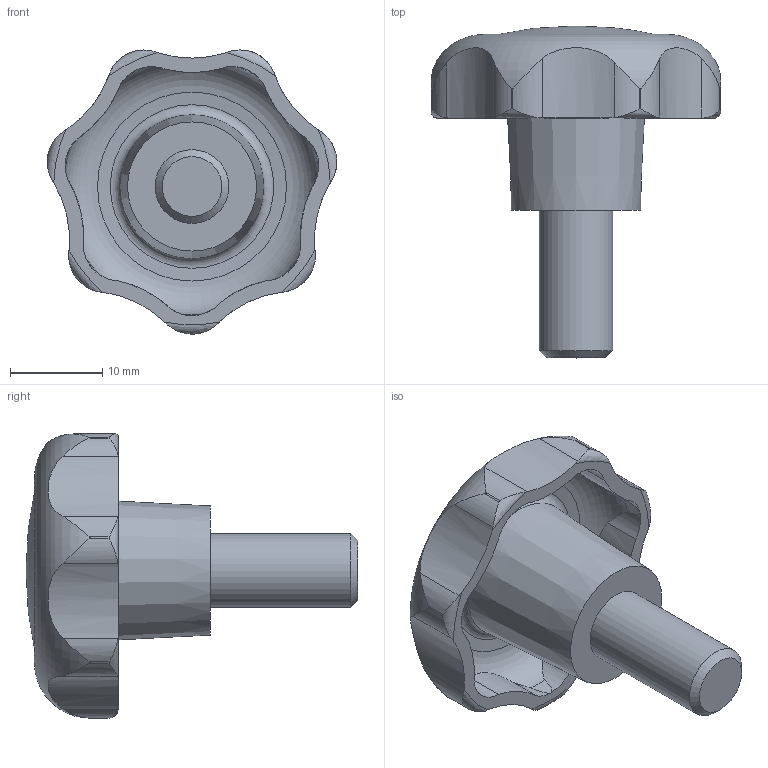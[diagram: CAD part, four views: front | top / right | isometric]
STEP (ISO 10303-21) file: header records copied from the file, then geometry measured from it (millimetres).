
FILE_DESCRIPTION( ( 'STEP AP203' ), '1' );
FILE_NAME( 'C:/Temp/Ganter_Step_05_03_2020/data/2_2/gn_6336_4/gn_6336_4_st/Star knob GN 6336.4-ST-32-M8-16.stp', '2020-03-05T12:07:23', ( 'License CC BY-ND 4.0' ), ( 'CADENAS' ), ' ', 'PARTsolutions', ' ' );
FILE_SCHEMA( ( 'CONFIG_CONTROL_DESIGN' ) );
Length unit declared in the file: millimetre
Products named in the file (1): _Star knob GN 6336.4-ST-32-M8-16
Bounding box: 31.4 x 36 x 30.81 mm (x, y, z)
Volume: 6602.5 mm3; surface area: 3573.4 mm2
Topology: 1 solids, 1 shells, 74 faces, 209 edges, 138 vertices
Faces by surface type: cylinder 50, torus 10, cone 10, plane 3, sphere 1
Full cylindrical faces by diameter (mm): 8 x1
Entity records: 3221 total; most frequent: CARTESIAN_POINT 1406, ORIENTED_EDGE 394, DIRECTION 336, EDGE_CURVE 197, AXIS2_PLACEMENT_3D 147, VERTEX_POINT 136, EDGE_LOOP 83, B_SPLINE_CURVE_WITH_KNOTS 83
